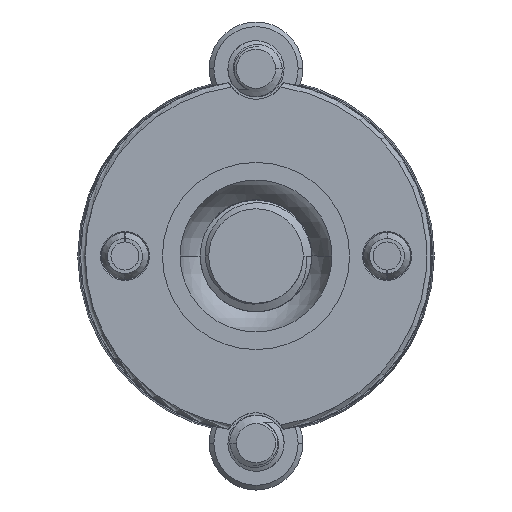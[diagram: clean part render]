
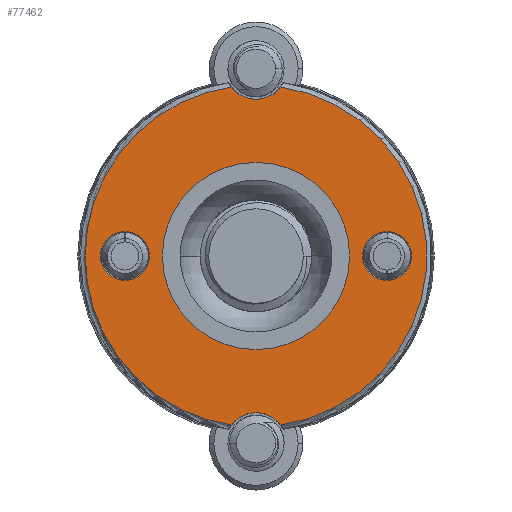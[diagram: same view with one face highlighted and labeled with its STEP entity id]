
A CAD part, front view. The second image highlights one B-rep face of the part: STEP entity #77462.
In plain terms, the highlighted planar face has unit normal (0, -1, 0).
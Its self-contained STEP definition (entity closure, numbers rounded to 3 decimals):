
#51 = EDGE_CURVE ( 'NONE', #10124, #81929, #16695, .T. ) ;
#737 = EDGE_CURVE ( 'NONE', #6400, #81125, #48365, .T. ) ;
#1862 = EDGE_LOOP ( 'NONE', ( #79819, #82629 ) ) ;
#1963 = CIRCLE ( 'NONE', #21275, 3.25 ) ;
#2655 = CARTESIAN_POINT ( 'NONE',  ( 11.4, -22., 0. ) ) ;
#3196 = CARTESIAN_POINT ( 'NONE',  ( 10., -22., 0. ) ) ;
#5415 = CIRCLE ( 'NONE', #37116, 10. ) ;
#6014 = AXIS2_PLACEMENT_3D ( 'NONE', #78833, #58204, #84436 ) ;
#6400 = VERTEX_POINT ( 'NONE', #48587 ) ;
#6732 = ORIENTED_EDGE ( 'NONE', *, *, #82224, .F. ) ;
#7036 = DIRECTION ( 'NONE',  ( -1., 0., 0. ) ) ;
#7299 = CIRCLE ( 'NONE', #40357, 2.6 ) ;
#9144 = DIRECTION ( 'NONE',  ( -1., 0., 0. ) ) ;
#9737 = CARTESIAN_POINT ( 'NONE',  ( 0., -22., 0. ) ) ;
#10124 = VERTEX_POINT ( 'NONE', #60208 ) ;
#10222 = CIRCLE ( 'NONE', #74862, 18.25 ) ;
#11077 = DIRECTION ( 'NONE',  ( 0., -1., 0. ) ) ;
#11161 = ORIENTED_EDGE ( 'NONE', *, *, #17054, .T. ) ;
#14310 = CIRCLE ( 'NONE', #62477, 2.6 ) ;
#14373 = CARTESIAN_POINT ( 'NONE',  ( 0., -22., 20. ) ) ;
#14846 = DIRECTION ( 'NONE',  ( 0., 1., 0. ) ) ;
#15078 = CARTESIAN_POINT ( 'NONE',  ( -14., -22., 0. ) ) ;
#15272 = CARTESIAN_POINT ( 'NONE',  ( -18.75, -22., -18.5 ) ) ;
#15736 = AXIS2_PLACEMENT_3D ( 'NONE', #81187, #30379, #56655 ) ;
#16695 = CIRCLE ( 'NONE', #79918, 2.6 ) ;
#17054 = EDGE_CURVE ( 'NONE', #48897, #26072, #5415, .T. ) ;
#18273 = CARTESIAN_POINT ( 'NONE',  ( 2.609, -22., 18.063 ) ) ;
#19780 = CIRCLE ( 'NONE', #6014, 18.25 ) ;
#20892 = ORIENTED_EDGE ( 'NONE', *, *, #54146, .F. ) ;
#21216 = ORIENTED_EDGE ( 'NONE', *, *, #54690, .F. ) ;
#21275 = AXIS2_PLACEMENT_3D ( 'NONE', #57556, #11077, #70051 ) ;
#22528 = CIRCLE ( 'NONE', #37663, 2.6 ) ;
#24190 = ORIENTED_EDGE ( 'NONE', *, *, #72314, .F. ) ;
#24602 = DIRECTION ( 'NONE',  ( -1., 0., 0. ) ) ;
#25724 = CARTESIAN_POINT ( 'NONE',  ( -18.25, -22., 0. ) ) ;
#26072 = VERTEX_POINT ( 'NONE', #3196 ) ;
#26521 = DIRECTION ( 'NONE',  ( 0., 1., 0. ) ) ;
#26714 = CIRCLE ( 'NONE', #15736, 18.25 ) ;
#27280 = EDGE_LOOP ( 'NONE', ( #11161, #78390 ) ) ;
#27533 = DIRECTION ( 'NONE',  ( -1., 0., 0. ) ) ;
#27973 = DIRECTION ( 'NONE',  ( 0., -1., 0. ) ) ;
#28857 = DIRECTION ( 'NONE',  ( -1., 0., 0. ) ) ;
#29396 = AXIS2_PLACEMENT_3D ( 'NONE', #15272, #14846, #41134 ) ;
#30379 = DIRECTION ( 'NONE',  ( 0., 1., 0. ) ) ;
#31393 = CARTESIAN_POINT ( 'NONE',  ( -10., -22., 0. ) ) ;
#31904 = CARTESIAN_POINT ( 'NONE',  ( -16.6, -22., 0. ) ) ;
#33444 = AXIS2_PLACEMENT_3D ( 'NONE', #14373, #62161, #53991 ) ;
#34221 = FACE_OUTER_BOUND ( 'NONE', #60723, .T. ) ;
#34262 = ORIENTED_EDGE ( 'NONE', *, *, #79719, .F. ) ;
#37116 = AXIS2_PLACEMENT_3D ( 'NONE', #56064, #57325, #24602 ) ;
#37384 = CARTESIAN_POINT ( 'NONE',  ( -11.4, -22., 0. ) ) ;
#37663 = AXIS2_PLACEMENT_3D ( 'NONE', #80911, #27973, #27533 ) ;
#39384 = CARTESIAN_POINT ( 'NONE',  ( 14., -22., 0. ) ) ;
#40357 = AXIS2_PLACEMENT_3D ( 'NONE', #15078, #49525, #28857 ) ;
#41134 = DIRECTION ( 'NONE',  ( -1., 0., 0. ) ) ;
#46664 = DIRECTION ( 'NONE',  ( 0., -1., 0. ) ) ;
#46747 = DIRECTION ( 'NONE',  ( -1., 0., 0. ) ) ;
#47480 = DIRECTION ( 'NONE',  ( 0., -1., 0. ) ) ;
#48019 = PLANE ( 'NONE',  #29396 ) ;
#48365 = CIRCLE ( 'NONE', #49717, 3.25 ) ;
#48587 = CARTESIAN_POINT ( 'NONE',  ( 2.609, -22., -18.063 ) ) ;
#48897 = VERTEX_POINT ( 'NONE', #31393 ) ;
#49525 = DIRECTION ( 'NONE',  ( 0., -1., 0. ) ) ;
#49717 = AXIS2_PLACEMENT_3D ( 'NONE', #74827, #69224, #68790 ) ;
#50454 = VERTEX_POINT ( 'NONE', #18273 ) ;
#53189 = FACE_BOUND ( 'NONE', #1862, .T. ) ;
#53991 = DIRECTION ( 'NONE',  ( -1., 0., 0. ) ) ;
#54146 = EDGE_CURVE ( 'NONE', #68702, #50454, #78796, .T. ) ;
#54361 = CARTESIAN_POINT ( 'NONE',  ( -14., -22., 0. ) ) ;
#54690 = EDGE_CURVE ( 'NONE', #70843, #85029, #7299, .T. ) ;
#56064 = CARTESIAN_POINT ( 'NONE',  ( 0., -22., 0. ) ) ;
#56636 = EDGE_CURVE ( 'NONE', #81929, #10124, #22528, .T. ) ;
#56655 = DIRECTION ( 'NONE',  ( -1., 0., 0. ) ) ;
#57325 = DIRECTION ( 'NONE',  ( 0., 1., 0. ) ) ;
#57556 = CARTESIAN_POINT ( 'NONE',  ( 0., -22., -20. ) ) ;
#58204 = DIRECTION ( 'NONE',  ( 0., 1., 0. ) ) ;
#59481 = CIRCLE ( 'NONE', #84180, 10. ) ;
#60063 = FACE_BOUND ( 'NONE', #27280, .T. ) ;
#60208 = CARTESIAN_POINT ( 'NONE',  ( 16.6, -22., 0. ) ) ;
#60723 = EDGE_LOOP ( 'NONE', ( #24190, #80140, #61818, #34262, #20892, #81077 ) ) ;
#61818 = ORIENTED_EDGE ( 'NONE', *, *, #737, .F. ) ;
#62161 = DIRECTION ( 'NONE',  ( 0., -1., 0. ) ) ;
#62268 = DIRECTION ( 'NONE',  ( 0., 1., 0. ) ) ;
#62477 = AXIS2_PLACEMENT_3D ( 'NONE', #54361, #47480, #9144 ) ;
#62606 = EDGE_CURVE ( 'NONE', #26072, #48897, #59481, .T. ) ;
#62691 = DIRECTION ( 'NONE',  ( -1., 0., 0. ) ) ;
#65619 = VERTEX_POINT ( 'NONE', #25724 ) ;
#68702 = VERTEX_POINT ( 'NONE', #69385 ) ;
#68790 = DIRECTION ( 'NONE',  ( -1., 0., 0. ) ) ;
#69224 = DIRECTION ( 'NONE',  ( 0., -1., 0. ) ) ;
#69385 = CARTESIAN_POINT ( 'NONE',  ( -2.609, -22., 18.062 ) ) ;
#70051 = DIRECTION ( 'NONE',  ( -1., 0., 0. ) ) ;
#70843 = VERTEX_POINT ( 'NONE', #31904 ) ;
#71709 = CARTESIAN_POINT ( 'NONE',  ( 0., -22., 0. ) ) ;
#72044 = EDGE_CURVE ( 'NONE', #65619, #68702, #10222, .T. ) ;
#72314 = EDGE_CURVE ( 'NONE', #77249, #65619, #26714, .T. ) ;
#72532 = CARTESIAN_POINT ( 'NONE',  ( -2.609, -22., -18.063 ) ) ;
#73394 = FACE_BOUND ( 'NONE', #76618, .T. ) ;
#74827 = CARTESIAN_POINT ( 'NONE',  ( 0., -22., -20. ) ) ;
#74862 = AXIS2_PLACEMENT_3D ( 'NONE', #9737, #62268, #62691 ) ;
#76618 = EDGE_LOOP ( 'NONE', ( #6732, #21216 ) ) ;
#77249 = VERTEX_POINT ( 'NONE', #72532 ) ;
#77325 = CARTESIAN_POINT ( 'NONE',  ( 0., -22., -16.75 ) ) ;
#77462 = ADVANCED_FACE ( 'NONE', ( #60063, #53189, #34221, #73394 ), #48019, .F. ) ;
#78390 = ORIENTED_EDGE ( 'NONE', *, *, #62606, .T. ) ;
#78796 = CIRCLE ( 'NONE', #33444, 3.25 ) ;
#78833 = CARTESIAN_POINT ( 'NONE',  ( 0., -22., 0. ) ) ;
#79719 = EDGE_CURVE ( 'NONE', #50454, #6400, #19780, .T. ) ;
#79819 = ORIENTED_EDGE ( 'NONE', *, *, #56636, .F. ) ;
#79918 = AXIS2_PLACEMENT_3D ( 'NONE', #39384, #46664, #7036 ) ;
#80140 = ORIENTED_EDGE ( 'NONE', *, *, #82811, .F. ) ;
#80911 = CARTESIAN_POINT ( 'NONE',  ( 14., -22., 0. ) ) ;
#81077 = ORIENTED_EDGE ( 'NONE', *, *, #72044, .F. ) ;
#81125 = VERTEX_POINT ( 'NONE', #77325 ) ;
#81187 = CARTESIAN_POINT ( 'NONE',  ( 0., -22., 0. ) ) ;
#81929 = VERTEX_POINT ( 'NONE', #2655 ) ;
#82224 = EDGE_CURVE ( 'NONE', #85029, #70843, #14310, .T. ) ;
#82629 = ORIENTED_EDGE ( 'NONE', *, *, #51, .F. ) ;
#82811 = EDGE_CURVE ( 'NONE', #81125, #77249, #1963, .T. ) ;
#84180 = AXIS2_PLACEMENT_3D ( 'NONE', #71709, #26521, #46747 ) ;
#84436 = DIRECTION ( 'NONE',  ( -1., 0., 0. ) ) ;
#85029 = VERTEX_POINT ( 'NONE', #37384 ) ;
